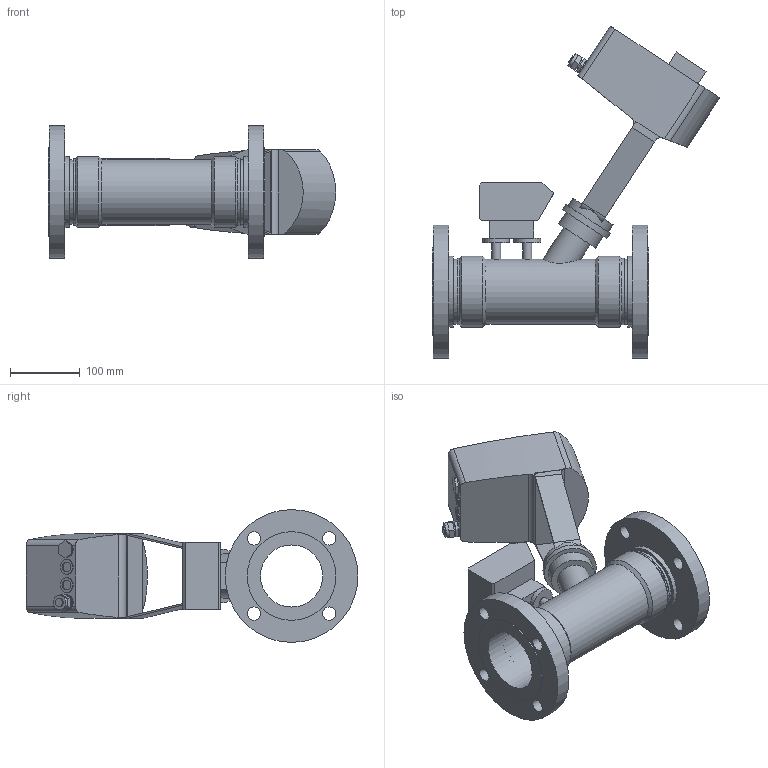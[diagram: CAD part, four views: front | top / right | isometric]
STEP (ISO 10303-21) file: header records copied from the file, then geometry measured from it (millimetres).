
FILE_DESCRIPTION(/* description */ ('VIC VALVE CONTROL TA SERIES 7SM (FLG)','CAx-IF Rec.Pracs.---Representation and Presentation of Product Manufacturing Information (PMI)---4.0---2014-10-13'),/* implementation_level */ '2;1');
FILE_NAME(/* name */ 'C:\Users\kkamble\AppData\Roaming\Autodesk\ApplicationPlugins\Victaulic.Temp\A306\Victaulic_IPS_Valve Control_TA Series 7SM (FLG)_3 (80).stp',/* time_stamp */ '2021-08-27T20:00:12+06:00',/* author */ ('kkamble'),/* organization */ ('Victaulic'),/* preprocessor_version */ 'ST-DEVELOPER v17.2',/* originating_system */ 'Autodesk Inventor 2019',/* authorisation */ '');
FILE_SCHEMA (('AP242_MANAGED_MODEL_BASED_3D_ENGINEERING_MIM_LF { 1 0 10303 442 1 1 4 }'));
Length unit declared in the file: inch
Products named in the file (3): 7SM-03.0; 7MP-03.0; TA-Slider_750_1250-01
Assembly tree (2 placements, depth 2):
  7SM-03.0
    7MP-03.0
    TA-Slider_750_1250-01
Bounding box: 411.26 x 474.99 x 189.99 mm (x, y, z)
Volume: 4015508 mm3; surface area: 489686.8 mm2
Topology: 2 solids, 2 shells, 184 faces, 474 edges, 317 vertices
Faces by surface type: plane 117, cylinder 63, cone 4
Full cylindrical faces by diameter (mm): 9.195 x6, 12.217 x1, 12.7 x2, 13.843 x5, 19.05 x8, 20.32 x1, 21.184 x5, 38.1 x2, 45.466 x1, 63.5 x1, 68.885 x1, 76.2 x1, 88.9 x1, 92.71 x3, 95.25 x4, 101.6 x4, 127 x2, 189.992 x2
Entity records: 6254 total; most frequent: CARTESIAN_POINT 1202, DIRECTION 1043, ORIENTED_EDGE 948, EDGE_CURVE 474, AXIS2_PLACEMENT_3D 398, VERTEX_POINT 317, LINE 247, VECTOR 247
